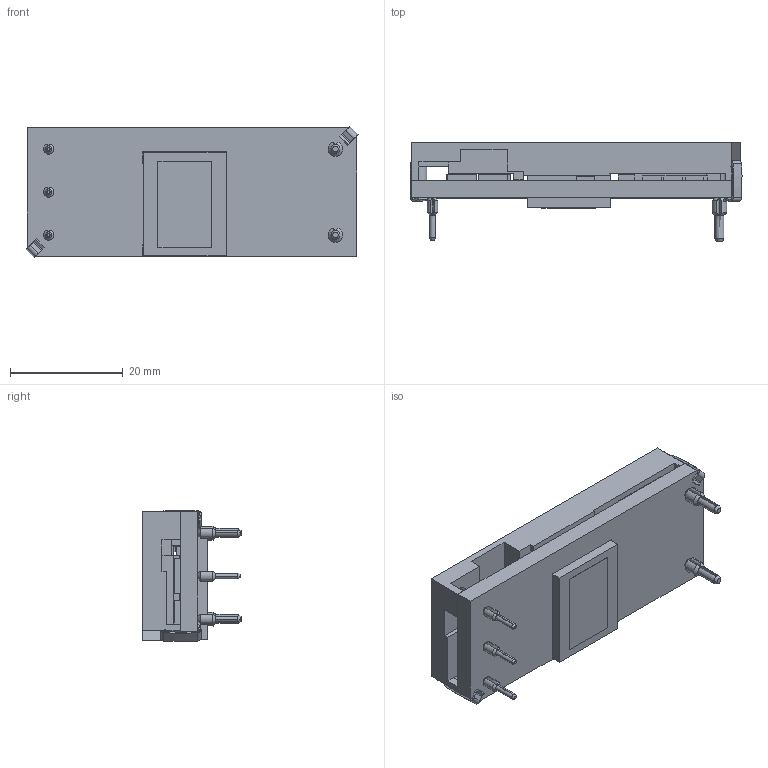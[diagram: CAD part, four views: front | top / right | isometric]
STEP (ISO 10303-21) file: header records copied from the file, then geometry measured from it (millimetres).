
FILE_DESCRIPTION((''),'2;1');
FILE_NAME('IEH_ASY_BASEPLATE_ASM','2015-07-16T',('glee'),('Innoveta Technologies'),'PRO/ENGINEER BY PARAMETRIC TECHNOLOGY CORPORATION, 2007390','PRO/ENGINEER BY PARAMETRIC TECHNOLOGY CORPORATION, 2007390','');
FILE_SCHEMA(('CONFIG_CONTROL_DESIGN'));
Length unit declared in the file: inch
Products named in the file (14): IEH_PWB; POWERPAK; MOSFET_3X3; HM73_30; EL18_CORE; ZP00251; ZP00252; 1206_RESISTOR; IEH_LBL; ZP00250; ZP00115_CLIP_ONCORE; 1210_RESISTOR; DFN8; IEH_ASY_BASEPLATE_ASM
Assembly tree (26 placements, depth 2):
  IEH_ASY_BASEPLATE_ASM
    IEH_PWB
    POWERPAK  x4
    MOSFET_3X3  x6
    HM73_30
    EL18_CORE  x2
    ZP00251  x3
    ZP00252  x2
    1206_RESISTOR
    IEH_LBL
    ZP00250
    ZP00115_CLIP_ONCORE  x2
    1210_RESISTOR
    DFN8
Bounding box: 58.79 x 17.5 x 23.22 mm (x, y, z)
Volume: 11083.9 mm3; surface area: 10817.7 mm2
Topology: 26 solids, 26 shells, 386 faces, 880 edges, 550 vertices
Faces by surface type: plane 278, cylinder 78, cone 30
Entity records: 7444 total; most frequent: CARTESIAN_POINT 1342, DIRECTION 1231, ORIENTED_EDGE 1158, EDGE_CURVE 579, VECTOR 457, LINE 457, AXIS2_PLACEMENT_3D 387, VERTEX_POINT 368
